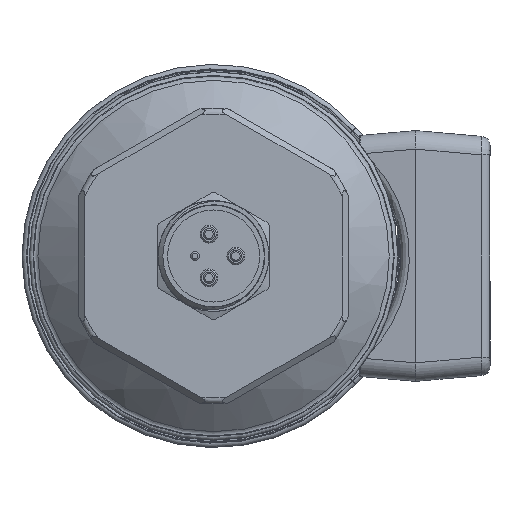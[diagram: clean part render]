
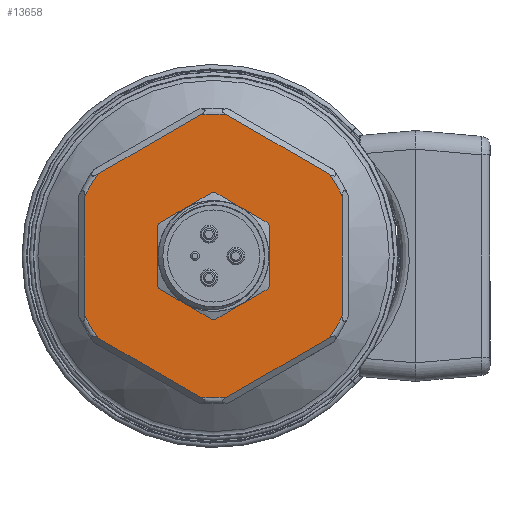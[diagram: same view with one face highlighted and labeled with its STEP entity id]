
A CAD part, left-side view. The second image highlights one B-rep face of the part: STEP entity #13658.
In plain terms, the highlighted planar face has unit normal (-1, 0, 0).
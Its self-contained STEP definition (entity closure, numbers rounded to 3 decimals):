
#155 = EDGE_CURVE ( 'NONE', #4512, #22930, #14377, .T. ) ;
#918 = DIRECTION ( 'NONE',  ( 0., -0.866, -0.5 ) ) ;
#1262 = CARTESIAN_POINT ( 'NONE',  ( -79.5, -22.019, 0. ) ) ;
#1294 = ORIENTED_EDGE ( 'NONE', *, *, #9441, .F. ) ;
#1416 = CARTESIAN_POINT ( 'NONE',  ( -79.5, 29.197, -8.568 ) ) ;
#1658 = ORIENTED_EDGE ( 'NONE', *, *, #27607, .T. ) ;
#1785 = DIRECTION ( 'NONE',  ( 0., 0., -1. ) ) ;
#1924 = VECTOR ( 'NONE', #13023, 1000. ) ;
#1959 = DIRECTION ( 'NONE',  ( 0., 0., -1. ) ) ;
#3118 = DIRECTION ( 'NONE',  ( -1., 0., 0. ) ) ;
#3141 = CARTESIAN_POINT ( 'NONE',  ( -79.5, 22.019, 10.161 ) ) ;
#3241 = DIRECTION ( 'NONE',  ( 0., -0.866, 0.5 ) ) ;
#3260 = EDGE_LOOP ( 'NONE', ( #9439 ) ) ;
#3733 = DIRECTION ( 'NONE',  ( 0., 0., -1. ) ) ;
#3899 = CARTESIAN_POINT ( 'NONE',  ( -79.5, 0., 0. ) ) ;
#4067 = CARTESIAN_POINT ( 'NONE',  ( -79.5, 0., 0. ) ) ;
#4310 = ORIENTED_EDGE ( 'NONE', *, *, #10403, .T. ) ;
#4445 = CARTESIAN_POINT ( 'NONE',  ( -79.5, 7.178, 29.569 ) ) ;
#4512 = VERTEX_POINT ( 'NONE', #3141 ) ;
#5016 = AXIS2_PLACEMENT_3D ( 'NONE', #5441, #7745, #21435 ) ;
#5424 = EDGE_CURVE ( 'NONE', #11085, #20812, #9166, .T. ) ;
#5441 = CARTESIAN_POINT ( 'NONE',  ( -79.5, 0., 0. ) ) ;
#5609 = AXIS2_PLACEMENT_3D ( 'NONE', #17208, #8584, #1959 ) ;
#5960 = VERTEX_POINT ( 'NONE', #13378 ) ;
#6721 = EDGE_LOOP ( 'NONE', ( #14188, #1658, #1294, #21915, #19840, #9240, #26286, #4310, #27916, #9063, #29488, #7061 ) ) ;
#6944 = FACE_BOUND ( 'NONE', #3260, .T. ) ;
#7000 = VERTEX_POINT ( 'NONE', #24706 ) ;
#7061 = ORIENTED_EDGE ( 'NONE', *, *, #29393, .T. ) ;
#7108 = DIRECTION ( 'NONE',  ( 0., 0., 1. ) ) ;
#7745 = DIRECTION ( 'NONE',  ( 1., 0., 0. ) ) ;
#8050 = LINE ( 'NONE', #29056, #1924 ) ;
#8489 = VECTOR ( 'NONE', #3241, 1000. ) ;
#8548 = VECTOR ( 'NONE', #28804, 1000. ) ;
#8584 = DIRECTION ( 'NONE',  ( 1., 0., 0. ) ) ;
#8965 = CIRCLE ( 'NONE', #25083, 24.25 ) ;
#9063 = ORIENTED_EDGE ( 'NONE', *, *, #10547, .T. ) ;
#9166 = CIRCLE ( 'NONE', #5016, 24.25 ) ;
#9240 = ORIENTED_EDGE ( 'NONE', *, *, #26608, .T. ) ;
#9309 = DIRECTION ( 'NONE',  ( 1., 0., 0. ) ) ;
#9390 = CIRCLE ( 'NONE', #18881, 24.25 ) ;
#9439 = ORIENTED_EDGE ( 'NONE', *, *, #20255, .F. ) ;
#9441 = EDGE_CURVE ( 'NONE', #12481, #25056, #9390, .T. ) ;
#9601 = DIRECTION ( 'NONE',  ( 0., 0.866, 0.5 ) ) ;
#9666 = CARTESIAN_POINT ( 'NONE',  ( -79.5, 22.019, -10.161 ) ) ;
#9923 = LINE ( 'NONE', #1416, #14958 ) ;
#10024 = CARTESIAN_POINT ( 'NONE',  ( -79.5, 0., 0. ) ) ;
#10403 = EDGE_CURVE ( 'NONE', #11085, #5960, #9923, .T. ) ;
#10547 = EDGE_CURVE ( 'NONE', #16719, #23567, #13871, .T. ) ;
#10705 = AXIS2_PLACEMENT_3D ( 'NONE', #3899, #9309, #25315 ) ;
#10895 = DIRECTION ( 'NONE',  ( 0., 0.866, -0.5 ) ) ;
#11085 = VERTEX_POINT ( 'NONE', #18770 ) ;
#11807 = DIRECTION ( 'NONE',  ( 1., 0., 0. ) ) ;
#11956 = CIRCLE ( 'NONE', #5609, 24.25 ) ;
#12175 = CARTESIAN_POINT ( 'NONE',  ( -79.5, -19.809, -13.989 ) ) ;
#12481 = VERTEX_POINT ( 'NONE', #13549 ) ;
#12547 = CARTESIAN_POINT ( 'NONE',  ( -79.5, 7.178, -29.569 ) ) ;
#13023 = DIRECTION ( 'NONE',  ( 0., 0., -1. ) ) ;
#13059 = CARTESIAN_POINT ( 'NONE',  ( -79.5, -22.019, 10.161 ) ) ;
#13311 = VECTOR ( 'NONE', #9601, 1000. ) ;
#13378 = CARTESIAN_POINT ( 'NONE',  ( -79.5, 2.21, -24.149 ) ) ;
#13488 = CARTESIAN_POINT ( 'NONE',  ( -79.5, -22.019, -10.161 ) ) ;
#13549 = CARTESIAN_POINT ( 'NONE',  ( -79.5, 2.21, 24.149 ) ) ;
#13658 = ADVANCED_FACE ( 'NONE', ( #6944, #24473 ), #16933, .T. ) ;
#13871 = LINE ( 'NONE', #12547, #8489 ) ;
#14188 = ORIENTED_EDGE ( 'NONE', *, *, #27785, .F. ) ;
#14377 = CIRCLE ( 'NONE', #10705, 24.25 ) ;
#14958 = VECTOR ( 'NONE', #918, 1000. ) ;
#15257 = CARTESIAN_POINT ( 'NONE',  ( -79.5, 0., 0. ) ) ;
#15520 = CARTESIAN_POINT ( 'NONE',  ( -79.5, 29.197, 8.568 ) ) ;
#16190 = VERTEX_POINT ( 'NONE', #13488 ) ;
#16213 = CARTESIAN_POINT ( 'NONE',  ( -79.5, -2.21, -24.149 ) ) ;
#16379 = EDGE_CURVE ( 'NONE', #12481, #22930, #29260, .T. ) ;
#16477 = VERTEX_POINT ( 'NONE', #27708 ) ;
#16719 = VERTEX_POINT ( 'NONE', #16213 ) ;
#16825 = DIRECTION ( 'NONE',  ( 0., 0., 1. ) ) ;
#16933 = PLANE ( 'NONE',  #29023 ) ;
#17208 = CARTESIAN_POINT ( 'NONE',  ( -79.5, 0., 0. ) ) ;
#17331 = CARTESIAN_POINT ( 'NONE',  ( -79.5, -2.21, 24.149 ) ) ;
#17803 = DIRECTION ( 'NONE',  ( 1., 0., 0. ) ) ;
#18312 = CARTESIAN_POINT ( 'NONE',  ( -79.5, 19.809, 13.989 ) ) ;
#18770 = CARTESIAN_POINT ( 'NONE',  ( -79.5, 19.809, -13.989 ) ) ;
#18881 = AXIS2_PLACEMENT_3D ( 'NONE', #15257, #26674, #3733 ) ;
#19127 = CARTESIAN_POINT ( 'NONE',  ( -79.5, 24.25, 0. ) ) ;
#19840 = ORIENTED_EDGE ( 'NONE', *, *, #155, .F. ) ;
#19932 = AXIS2_PLACEMENT_3D ( 'NONE', #4067, #17803, #1785 ) ;
#20255 = EDGE_CURVE ( 'NONE', #16477, #16477, #28532, .T. ) ;
#20812 = VERTEX_POINT ( 'NONE', #9666 ) ;
#21435 = DIRECTION ( 'NONE',  ( 0., 0., -1. ) ) ;
#21915 = ORIENTED_EDGE ( 'NONE', *, *, #16379, .T. ) ;
#21926 = CIRCLE ( 'NONE', #19932, 24.25 ) ;
#22880 = EDGE_CURVE ( 'NONE', #16719, #5960, #8965, .T. ) ;
#22930 = VERTEX_POINT ( 'NONE', #18312 ) ;
#22995 = DIRECTION ( 'NONE',  ( -1., 0., 0. ) ) ;
#23567 = VERTEX_POINT ( 'NONE', #12175 ) ;
#24473 = FACE_OUTER_BOUND ( 'NONE', #6721, .T. ) ;
#24706 = CARTESIAN_POINT ( 'NONE',  ( -79.5, -19.809, 13.989 ) ) ;
#25056 = VERTEX_POINT ( 'NONE', #17331 ) ;
#25083 = AXIS2_PLACEMENT_3D ( 'NONE', #27847, #11807, #25520 ) ;
#25315 = DIRECTION ( 'NONE',  ( 0., 0., -1. ) ) ;
#25495 = LINE ( 'NONE', #4445, #13311 ) ;
#25520 = DIRECTION ( 'NONE',  ( 0., 0., -1. ) ) ;
#25952 = VECTOR ( 'NONE', #10895, 1000. ) ;
#26023 = EDGE_CURVE ( 'NONE', #16190, #23567, #11956, .T. ) ;
#26087 = LINE ( 'NONE', #1262, #8548 ) ;
#26286 = ORIENTED_EDGE ( 'NONE', *, *, #5424, .F. ) ;
#26608 = EDGE_CURVE ( 'NONE', #4512, #20812, #8050, .T. ) ;
#26674 = DIRECTION ( 'NONE',  ( 1., 0., 0. ) ) ;
#27607 = EDGE_CURVE ( 'NONE', #7000, #25056, #25495, .T. ) ;
#27708 = CARTESIAN_POINT ( 'NONE',  ( -79.5, 0., 5.753 ) ) ;
#27785 = EDGE_CURVE ( 'NONE', #7000, #29406, #21926, .T. ) ;
#27847 = CARTESIAN_POINT ( 'NONE',  ( -79.5, 0., 0. ) ) ;
#27916 = ORIENTED_EDGE ( 'NONE', *, *, #22880, .F. ) ;
#28532 = CIRCLE ( 'NONE', #28985, 5.753 ) ;
#28804 = DIRECTION ( 'NONE',  ( 0., 0., 1. ) ) ;
#28985 = AXIS2_PLACEMENT_3D ( 'NONE', #10024, #22995, #7108 ) ;
#29023 = AXIS2_PLACEMENT_3D ( 'NONE', #19127, #3118, #16825 ) ;
#29056 = CARTESIAN_POINT ( 'NONE',  ( -79.5, 22.019, 0. ) ) ;
#29260 = LINE ( 'NONE', #15520, #25952 ) ;
#29393 = EDGE_CURVE ( 'NONE', #16190, #29406, #26087, .T. ) ;
#29406 = VERTEX_POINT ( 'NONE', #13059 ) ;
#29488 = ORIENTED_EDGE ( 'NONE', *, *, #26023, .F. ) ;
